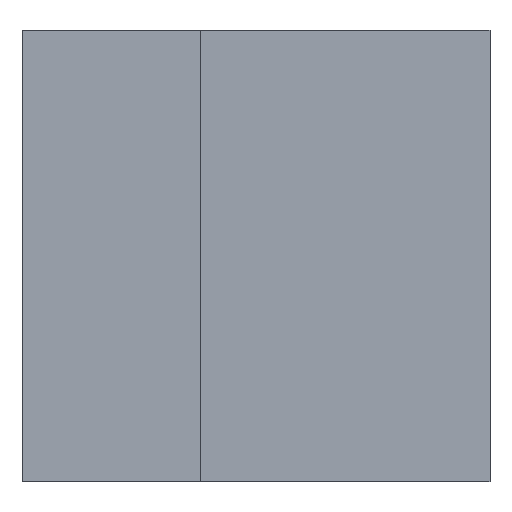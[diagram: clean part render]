
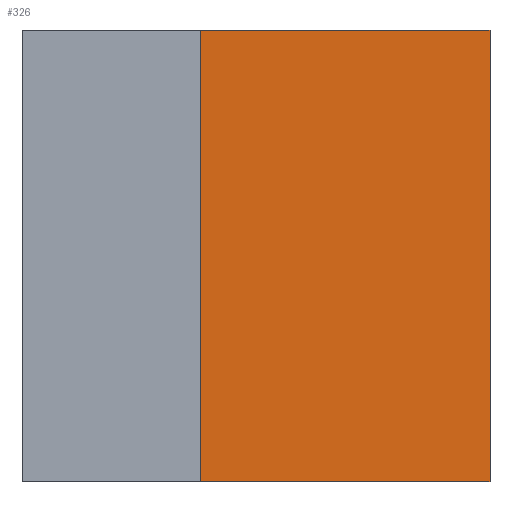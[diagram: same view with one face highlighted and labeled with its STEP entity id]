
A CAD part, front view. The second image highlights one B-rep face of the part: STEP entity #326.
In plain terms, the highlighted planar face has unit normal (0, -1, 0).
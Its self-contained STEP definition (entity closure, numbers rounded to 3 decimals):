
#2 = DIRECTION ( 'NONE',  ( 1., 0., 0. ) ) ;
#5 = EDGE_CURVE ( 'NONE', #176, #116, #70, .T. ) ;
#21 = VECTOR ( 'NONE', #27, 1000. ) ;
#23 = LINE ( 'NONE', #251, #21 ) ;
#26 = VECTOR ( 'NONE', #174, 1000. ) ;
#27 = DIRECTION ( 'NONE',  ( 0., 0., -1. ) ) ;
#56 = CARTESIAN_POINT ( 'NONE',  ( 19.69, 34.5, 0. ) ) ;
#62 = EDGE_CURVE ( 'NONE', #118, #167, #213, .T. ) ;
#70 = LINE ( 'NONE', #171, #26 ) ;
#72 = ORIENTED_EDGE ( 'NONE', *, *, #62, .T. ) ;
#91 = FACE_OUTER_BOUND ( 'NONE', #151, .T. ) ;
#116 = VERTEX_POINT ( 'NONE', #159 ) ;
#118 = VERTEX_POINT ( 'NONE', #262 ) ;
#119 = AXIS2_PLACEMENT_3D ( 'NONE', #244, #187, #241 ) ;
#120 = ORIENTED_EDGE ( 'NONE', *, *, #256, .T. ) ;
#138 = VECTOR ( 'NONE', #276, 1000. ) ;
#146 = CARTESIAN_POINT ( 'NONE',  ( 19.69, 34.5, 19. ) ) ;
#151 = EDGE_LOOP ( 'NONE', ( #72, #330, #308, #120 ) ) ;
#159 = CARTESIAN_POINT ( 'NONE',  ( 19.69, 34.5, 19. ) ) ;
#167 = VERTEX_POINT ( 'NONE', #178 ) ;
#171 = CARTESIAN_POINT ( 'NONE',  ( 19.69, 34.5, 19. ) ) ;
#174 = DIRECTION ( 'NONE',  ( 1., 0., 0. ) ) ;
#176 = VERTEX_POINT ( 'NONE', #234 ) ;
#178 = CARTESIAN_POINT ( 'NONE',  ( 19.69, 34.5, 0. ) ) ;
#182 = VECTOR ( 'NONE', #2, 1000. ) ;
#187 = DIRECTION ( 'NONE',  ( 0., 1., 0. ) ) ;
#207 = LINE ( 'NONE', #146, #138 ) ;
#213 = LINE ( 'NONE', #56, #182 ) ;
#223 = EDGE_CURVE ( 'NONE', #116, #167, #207, .T. ) ;
#234 = CARTESIAN_POINT ( 'NONE',  ( 7.5, 34.5, 19. ) ) ;
#241 = DIRECTION ( 'NONE',  ( 0., 0., 1. ) ) ;
#244 = CARTESIAN_POINT ( 'NONE',  ( 19.69, 34.5, 19. ) ) ;
#251 = CARTESIAN_POINT ( 'NONE',  ( 7.5, 34.5, 19. ) ) ;
#256 = EDGE_CURVE ( 'NONE', #176, #118, #23, .T. ) ;
#262 = CARTESIAN_POINT ( 'NONE',  ( 7.5, 34.5, 0. ) ) ;
#276 = DIRECTION ( 'NONE',  ( 0., 0., -1. ) ) ;
#308 = ORIENTED_EDGE ( 'NONE', *, *, #5, .F. ) ;
#324 = PLANE ( 'NONE',  #119 ) ;
#326 = ADVANCED_FACE ( 'NONE', ( #91 ), #324, .F. ) ;
#330 = ORIENTED_EDGE ( 'NONE', *, *, #223, .F. ) ;
